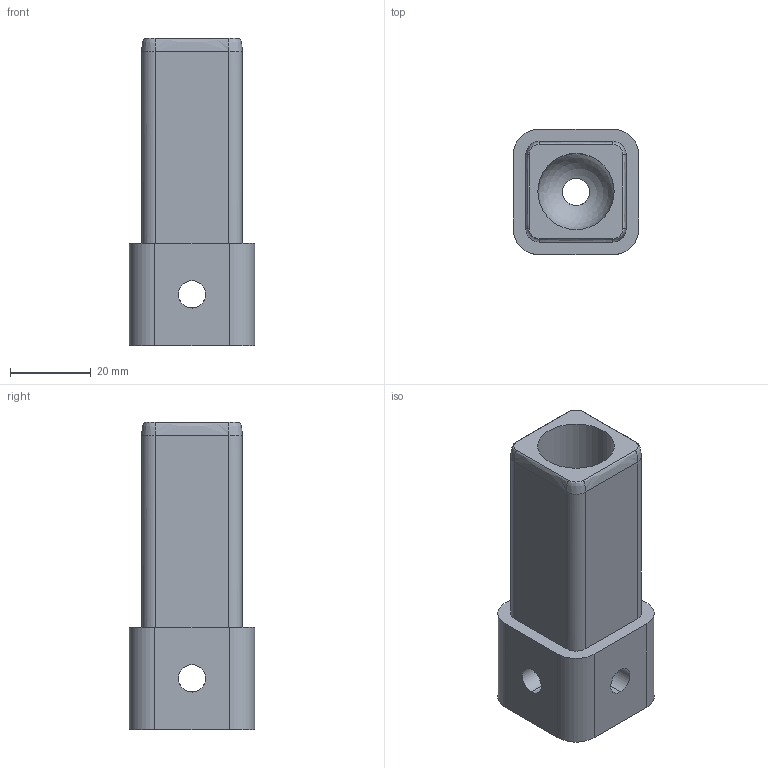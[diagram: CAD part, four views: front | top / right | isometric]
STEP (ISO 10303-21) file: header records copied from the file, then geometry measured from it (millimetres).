
FILE_DESCRIPTION (( 'STEP AP203' ), '1' );
FILE_NAME ('FDPCK-MCS1-END-THRD-5.STEP', '2019-09-11T19:14:12', ( 'ydmin' ), ( '' ), 'SwSTEP 2.0', 'SolidWorks 2017', '' );
FILE_SCHEMA (( 'CONFIG_CONTROL_DESIGN' ));
Length unit declared in the file: inch
Products named in the file (1): FDPCK-MCS1-END-THRD-5
Bounding box: 31.11 x 31.11 x 76.2 mm (x, y, z)
Volume: 38530.6 mm3; surface area: 13477.9 mm2
Topology: 1 solids, 1 shells, 42 faces, 116 edges, 73 vertices
Faces by surface type: cylinder 22, plane 11, bspline 8, sphere 1
Entity records: 1585 total; most frequent: CARTESIAN_POINT 537, ORIENTED_EDGE 228, DIRECTION 176, EDGE_CURVE 114, VERTEX_POINT 72, AXIS2_PLACEMENT_3D 63, LINE 50, VECTOR 50
